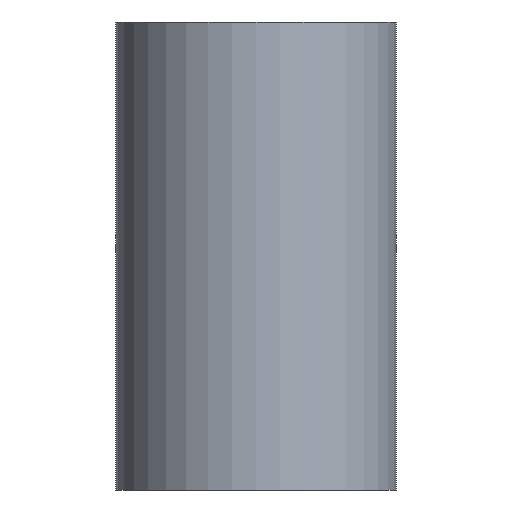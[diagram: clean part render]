
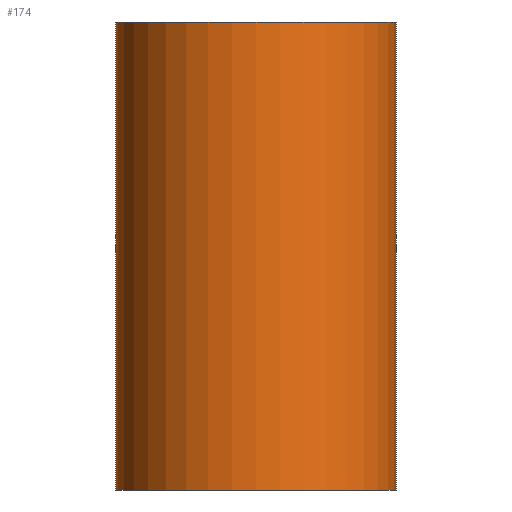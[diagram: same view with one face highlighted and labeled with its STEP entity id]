
A CAD part, front view. The second image highlights one B-rep face of the part: STEP entity #174.
In plain terms, the highlighted cylindrical face has radius 6 mm (diameter 12 mm), a full revolution.
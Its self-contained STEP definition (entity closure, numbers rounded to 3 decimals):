
#22=FACE_BOUND('',#45,.T.);
#23=FACE_BOUND('',#46,.T.);
#32=FACE_OUTER_BOUND('',#44,.T.);
#44=EDGE_LOOP('',(#149,#150,#151,#152));
#45=EDGE_LOOP('',(#153,#154));
#46=EDGE_LOOP('',(#155,#156));
#51=B_SPLINE_CURVE_WITH_KNOTS('',3,(#267,#268,#269,#270,#271,#272,#273,
#274,#275,#276,#277,#278,#279,#280,#281,#282,#283,#284),.UNSPECIFIED.,.F.,
 .F.,(4,2,2,2,2,2,2,2,4),(0.,0.038,0.075,0.113,
0.151,0.189,0.226,0.264,0.302),
 .UNSPECIFIED.);
#52=B_SPLINE_CURVE_WITH_KNOTS('',3,(#285,#286,#287,#288,#289,#290,#291,
#292,#293,#294,#295,#296,#297,#298,#299,#300,#301,#302),.UNSPECIFIED.,.F.,
 .F.,(4,2,2,2,2,2,2,2,4),(0.302,0.34,0.377,
0.415,0.453,0.491,0.528,
0.566,0.604),.UNSPECIFIED.);
#55=B_SPLINE_CURVE_WITH_KNOTS('',3,(#345,#346,#347,#348,#349,#350,#351,
#352,#353,#354,#355,#356,#357,#358,#359,#360,#361,#362),.UNSPECIFIED.,.F.,
 .F.,(4,2,2,2,2,2,2,2,4),(0.,0.038,0.075,0.113,
0.151,0.189,0.226,0.264,0.302),
 .UNSPECIFIED.);
#56=B_SPLINE_CURVE_WITH_KNOTS('',3,(#363,#364,#365,#366,#367,#368,#369,
#370,#371,#372,#373,#374,#375,#376,#377,#378,#379,#380),.UNSPECIFIED.,.F.,
 .F.,(4,2,2,2,2,2,2,2,4),(0.302,0.34,0.377,
0.415,0.453,0.491,0.528,
0.566,0.604),.UNSPECIFIED.);
#64=LINE('',#404,#72);
#72=VECTOR('',#251,6.);
#77=CIRCLE('',#205,6.);
#80=CIRCLE('',#211,6.);
#83=VERTEX_POINT('',#264);
#84=VERTEX_POINT('',#266);
#87=VERTEX_POINT('',#342);
#88=VERTEX_POINT('',#344);
#91=VERTEX_POINT('',#388);
#96=VERTEX_POINT('',#403);
#100=EDGE_CURVE('',#84,#83,#51,.T.);
#101=EDGE_CURVE('',#83,#84,#52,.T.);
#105=EDGE_CURVE('',#88,#87,#55,.T.);
#106=EDGE_CURVE('',#87,#88,#56,.T.);
#110=EDGE_CURVE('',#91,#91,#77,.T.);
#117=EDGE_CURVE('',#91,#96,#64,.T.);
#118=EDGE_CURVE('',#96,#96,#80,.T.);
#149=ORIENTED_EDGE('',*,*,#110,.F.);
#150=ORIENTED_EDGE('',*,*,#117,.T.);
#151=ORIENTED_EDGE('',*,*,#118,.F.);
#152=ORIENTED_EDGE('',*,*,#117,.F.);
#153=ORIENTED_EDGE('',*,*,#100,.T.);
#154=ORIENTED_EDGE('',*,*,#101,.T.);
#155=ORIENTED_EDGE('',*,*,#105,.T.);
#156=ORIENTED_EDGE('',*,*,#106,.T.);
#167=CYLINDRICAL_SURFACE('',#210,6.);
#174=ADVANCED_FACE('',(#32,#22,#23),#167,.T.);
#205=AXIS2_PLACEMENT_3D('',#389,#235,#236);
#210=AXIS2_PLACEMENT_3D('',#402,#249,#250);
#211=AXIS2_PLACEMENT_3D('',#405,#252,#253);
#235=DIRECTION('center_axis',(0.,0.,1.));
#236=DIRECTION('ref_axis',(-1.,0.,0.));
#249=DIRECTION('center_axis',(0.,0.,1.));
#250=DIRECTION('ref_axis',(-1.,0.,0.));
#251=DIRECTION('',(0.,0.,-1.));
#252=DIRECTION('center_axis',(0.,0.,-1.));
#253=DIRECTION('ref_axis',(-1.,0.,0.));
#264=CARTESIAN_POINT('',(-1.,5.916,5.));
#266=CARTESIAN_POINT('',(1.,5.916,5.));
#267=CARTESIAN_POINT('Ctrl Pts',(1.,5.916,5.));
#268=CARTESIAN_POINT('Ctrl Pts',(1.,5.916,5.126));
#269=CARTESIAN_POINT('Ctrl Pts',(0.975,5.921,5.26));
#270=CARTESIAN_POINT('Ctrl Pts',(0.873,5.936,5.506));
#271=CARTESIAN_POINT('Ctrl Pts',(0.796,5.948,5.618));
#272=CARTESIAN_POINT('Ctrl Pts',(0.618,5.969,5.796));
#273=CARTESIAN_POINT('Ctrl Pts',(0.506,5.98,5.873));
#274=CARTESIAN_POINT('Ctrl Pts',(0.26,5.996,5.975));
#275=CARTESIAN_POINT('Ctrl Pts',(0.126,6.,6.));
#276=CARTESIAN_POINT('Ctrl Pts',(-0.126,6.,6.));
#277=CARTESIAN_POINT('Ctrl Pts',(-0.26,5.996,5.975));
#278=CARTESIAN_POINT('Ctrl Pts',(-0.506,5.98,5.873));
#279=CARTESIAN_POINT('Ctrl Pts',(-0.618,5.969,5.796));
#280=CARTESIAN_POINT('Ctrl Pts',(-0.796,5.948,5.618));
#281=CARTESIAN_POINT('Ctrl Pts',(-0.873,5.936,5.506));
#282=CARTESIAN_POINT('Ctrl Pts',(-0.975,5.921,5.26));
#283=CARTESIAN_POINT('Ctrl Pts',(-1.,5.916,5.126));
#284=CARTESIAN_POINT('Ctrl Pts',(-1.,5.916,5.));
#285=CARTESIAN_POINT('Ctrl Pts',(-1.,5.916,5.));
#286=CARTESIAN_POINT('Ctrl Pts',(-1.,5.916,4.874));
#287=CARTESIAN_POINT('Ctrl Pts',(-0.975,5.921,4.74));
#288=CARTESIAN_POINT('Ctrl Pts',(-0.873,5.936,4.494));
#289=CARTESIAN_POINT('Ctrl Pts',(-0.796,5.948,4.382));
#290=CARTESIAN_POINT('Ctrl Pts',(-0.618,5.969,4.204));
#291=CARTESIAN_POINT('Ctrl Pts',(-0.506,5.98,4.127));
#292=CARTESIAN_POINT('Ctrl Pts',(-0.26,5.996,4.025));
#293=CARTESIAN_POINT('Ctrl Pts',(-0.126,6.,4.));
#294=CARTESIAN_POINT('Ctrl Pts',(0.126,6.,4.));
#295=CARTESIAN_POINT('Ctrl Pts',(0.26,5.996,4.025));
#296=CARTESIAN_POINT('Ctrl Pts',(0.506,5.98,4.127));
#297=CARTESIAN_POINT('Ctrl Pts',(0.618,5.969,4.204));
#298=CARTESIAN_POINT('Ctrl Pts',(0.796,5.948,4.382));
#299=CARTESIAN_POINT('Ctrl Pts',(0.873,5.936,4.494));
#300=CARTESIAN_POINT('Ctrl Pts',(0.975,5.921,4.74));
#301=CARTESIAN_POINT('Ctrl Pts',(1.,5.916,4.874));
#302=CARTESIAN_POINT('Ctrl Pts',(1.,5.916,5.));
#342=CARTESIAN_POINT('',(-1.,5.916,15.));
#344=CARTESIAN_POINT('',(1.,5.916,15.));
#345=CARTESIAN_POINT('Ctrl Pts',(1.,5.916,15.));
#346=CARTESIAN_POINT('Ctrl Pts',(1.,5.916,15.126));
#347=CARTESIAN_POINT('Ctrl Pts',(0.975,5.921,15.26));
#348=CARTESIAN_POINT('Ctrl Pts',(0.873,5.936,15.506));
#349=CARTESIAN_POINT('Ctrl Pts',(0.796,5.948,15.618));
#350=CARTESIAN_POINT('Ctrl Pts',(0.618,5.969,15.796));
#351=CARTESIAN_POINT('Ctrl Pts',(0.506,5.98,15.873));
#352=CARTESIAN_POINT('Ctrl Pts',(0.26,5.996,15.975));
#353=CARTESIAN_POINT('Ctrl Pts',(0.126,6.,16.));
#354=CARTESIAN_POINT('Ctrl Pts',(-0.126,6.,16.));
#355=CARTESIAN_POINT('Ctrl Pts',(-0.26,5.996,15.975));
#356=CARTESIAN_POINT('Ctrl Pts',(-0.506,5.98,15.873));
#357=CARTESIAN_POINT('Ctrl Pts',(-0.618,5.969,15.796));
#358=CARTESIAN_POINT('Ctrl Pts',(-0.796,5.948,15.618));
#359=CARTESIAN_POINT('Ctrl Pts',(-0.873,5.936,15.506));
#360=CARTESIAN_POINT('Ctrl Pts',(-0.975,5.921,15.26));
#361=CARTESIAN_POINT('Ctrl Pts',(-1.,5.916,15.126));
#362=CARTESIAN_POINT('Ctrl Pts',(-1.,5.916,15.));
#363=CARTESIAN_POINT('Ctrl Pts',(-1.,5.916,15.));
#364=CARTESIAN_POINT('Ctrl Pts',(-1.,5.916,14.874));
#365=CARTESIAN_POINT('Ctrl Pts',(-0.975,5.921,14.74));
#366=CARTESIAN_POINT('Ctrl Pts',(-0.873,5.936,14.494));
#367=CARTESIAN_POINT('Ctrl Pts',(-0.796,5.948,14.382));
#368=CARTESIAN_POINT('Ctrl Pts',(-0.618,5.969,14.204));
#369=CARTESIAN_POINT('Ctrl Pts',(-0.506,5.98,14.127));
#370=CARTESIAN_POINT('Ctrl Pts',(-0.26,5.996,14.025));
#371=CARTESIAN_POINT('Ctrl Pts',(-0.126,6.,14.));
#372=CARTESIAN_POINT('Ctrl Pts',(0.126,6.,14.));
#373=CARTESIAN_POINT('Ctrl Pts',(0.26,5.996,14.025));
#374=CARTESIAN_POINT('Ctrl Pts',(0.506,5.98,14.127));
#375=CARTESIAN_POINT('Ctrl Pts',(0.618,5.969,14.204));
#376=CARTESIAN_POINT('Ctrl Pts',(0.796,5.948,14.382));
#377=CARTESIAN_POINT('Ctrl Pts',(0.873,5.936,14.494));
#378=CARTESIAN_POINT('Ctrl Pts',(0.975,5.921,14.74));
#379=CARTESIAN_POINT('Ctrl Pts',(1.,5.916,14.874));
#380=CARTESIAN_POINT('Ctrl Pts',(1.,5.916,15.));
#388=CARTESIAN_POINT('',(6.,0.,20.));
#389=CARTESIAN_POINT('Origin',(0.,0.,20.));
#402=CARTESIAN_POINT('Origin',(0.,0.,0.));
#403=CARTESIAN_POINT('',(6.,0.,0.));
#404=CARTESIAN_POINT('',(6.,0.,0.));
#405=CARTESIAN_POINT('Origin',(0.,0.,0.));
